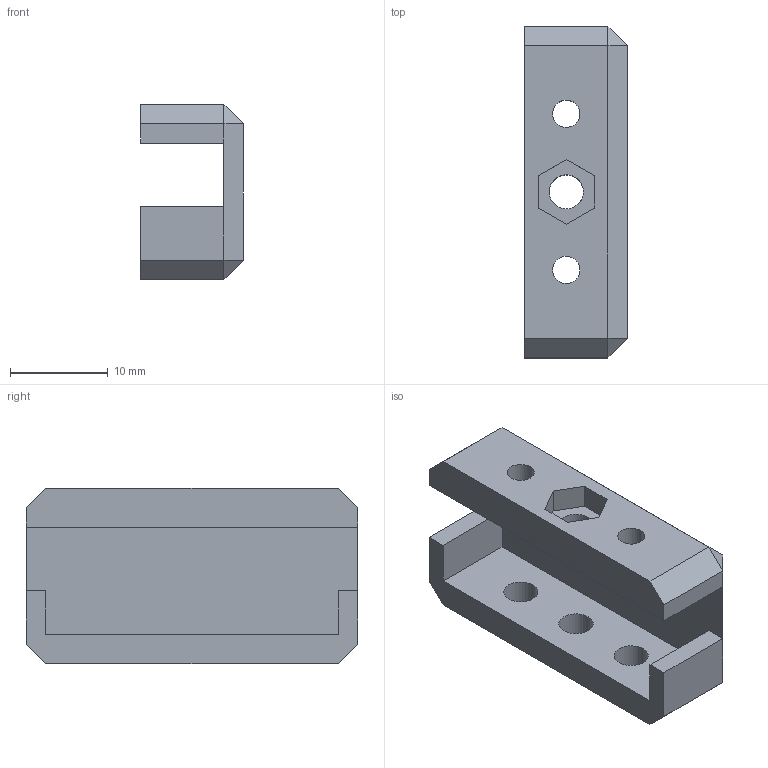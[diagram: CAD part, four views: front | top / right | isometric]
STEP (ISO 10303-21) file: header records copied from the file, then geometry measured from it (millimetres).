
FILE_DESCRIPTION(/* description */ ('STEP AP242 Edition 2','CAx-IF Rec.Pracs.---Representation and Presentation of Product Manufacturing Information (PMI)---4.0---2014-10-13','CAx-IF Rec.Pracs.---3D Tessellated Geometry---0.4---2014-09-14','2;1','CAx-IF Rec.Pracs.---User Defined Attributes---1.5---2016-08-15'),/* implementation_level */ '2;1');
FILE_NAME(/* name */ 'Enclosure - Stick Cap B1',/* time_stamp */ '2026-11-16T09:17:37Z',/* author */ (''),/* organization */ (''),/* preprocessor_version */ 'ST-DEVELOPER v20',/* originating_system */ 'ONSHAPE BY PTC INC, 1.223',/* authorisation */ ' ');
FILE_SCHEMA (('AP242_MANAGED_MODEL_BASED_3D_ENGINEERING_MIM_LF { 1 0 10303 442 3 1 4 }'));
Length unit declared in the file: metre
Products named in the file (1): Stick Cap B1
Bounding box: 10.55 x 34 x 18 mm (x, y, z)
Volume: 2916.9 mm3; surface area: 2816.6 mm2
Topology: 1 solids, 1 shells, 41 faces, 104 edges, 66 vertices
Faces by surface type: plane 35, cylinder 6
Full cylindrical faces by diameter (mm): 2.8 x2, 3.5 x4
Entity records: 1172 total; most frequent: CARTESIAN_POINT 194, DIRECTION 188, ORIENTED_EDGE 184, EDGE_CURVE 92, LINE 80, VECTOR 80, VERTEX_POINT 60, EDGE_LOOP 60
